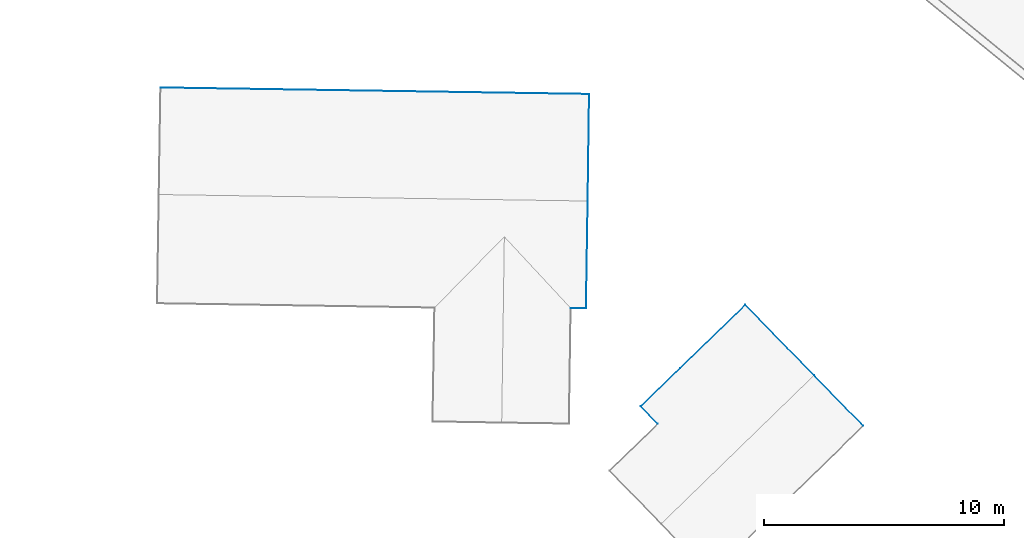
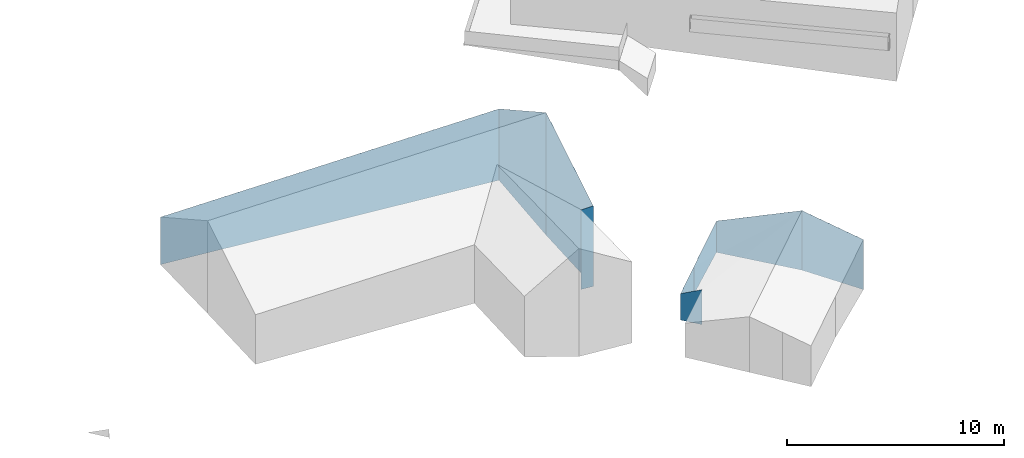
# Not in any storey, part 63 of 136: 9 walls.
"""IFC4 building model written with IfcOpenShell, lengths in metres."""

import ifcopenshell
import ifcopenshell.guid

model = None  # the IFC model being written
_history = None  # IfcOwnerHistory: only IFC2X3 demands one
_inside = {}  # id of a spatial element -> (the spatial element, [elements in it])
_under = {}  # id of a project, library or spatial element -> (it, [spatial elements below it])
_declared = {}  # id of a project -> (the project, [libraries it declares])
_typed = {}  # id of a type object -> (the type object, [elements of that type])
_made_of = {}  # id of a material, layer set ... -> (it, [elements and type objects made of it])


def new_model(schema):
    """Start an empty IFC model of exactly this schema.

    Asked for "IFC4X3", IfcOpenShell would pick the latest addendum, in which some entities
    have other attributes; the version numbers below select the first issue.
    IFC2X3 requires an IfcOwnerHistory on every rooted entity: one is made here for all.
    """
    global model, _history
    if schema == "IFC4X3":
        model = ifcopenshell.file(schema_version=(4, 3, 0, 0))
    else:
        model = ifcopenshell.file(schema=schema)
    _inside.clear()
    _under.clear()
    _declared.clear()
    _typed.clear()
    _made_of.clear()
    _history = None
    if model.schema == "IFC2X3":
        org = make("IfcOrganization", Name="unknown")
        user = make(
            "IfcPersonAndOrganization",
            ThePerson=make("IfcPerson", FamilyName="unknown"),
            TheOrganization=org,
        )
        app = make(
            "IfcApplication",
            ApplicationDeveloper=org,
            Version="unknown",
            ApplicationFullName="unknown",
            ApplicationIdentifier="unknown",
        )
        _history = make(
            "IfcOwnerHistory",
            OwningUser=user,
            OwningApplication=app,
            ChangeAction="ADDED",
            CreationDate=0,
        )
    return model


def make(cls, **values):
    """One entity of the class cls with the attributes given. An attribute that is None is left unset."""
    return model.create_entity(
        cls, **{name: value for name, value in values.items() if value is not None}
    )


def entity(cls, *values):
    """Any entity or typed value of the class cls, its attributes in the order of the schema. None: left unset."""
    e = model.create_entity(cls)
    for i, value in enumerate(values):
        if value is not None:
            e[i] = value
    return e


def rooted(cls, **values):
    """An entity with a GlobalId (a new one), such as an element, a storey or a relation."""
    return make(cls, GlobalId=ifcopenshell.guid.new(), OwnerHistory=_history, **values)


def si_unit(unit_type, name, prefix=None):
    """IfcSIUnit, for example si_unit("LENGTHUNIT", "METRE", prefix="MILLI")."""
    return make("IfcSIUnit", UnitType=unit_type, Prefix=prefix, Name=name)


def converted_unit(unit_type, name, factor, base, dimensions=None, offset=None):
    """IfcConversionBasedUnit, such as the inch: factor (a typed value) times the base unit."""
    return make(
        "IfcConversionBasedUnit"
        if offset is None
        else "IfcConversionBasedUnitWithOffset",
        ConversionOffset=offset,
        Dimensions=None
        if dimensions is None
        else entity("IfcDimensionalExponents", *dimensions),
        UnitType=unit_type,
        Name=name,
        ConversionFactor=make(
            "IfcMeasureWithUnit", ValueComponent=factor, UnitComponent=base
        ),
    )


def assignment(units):
    """IfcUnitAssignment: the units of a project."""
    return None if units is None else make("IfcUnitAssignment", Units=units)


def point(xyz):
    """IfcCartesianPoint."""
    return None if xyz is None else make("IfcCartesianPoint", Coordinates=xyz)


def direction(xyz):
    """IfcDirection."""
    return None if xyz is None else make("IfcDirection", DirectionRatios=xyz)


def frame(location, z_axis=None, x_axis=None):
    """IfcAxis2Placement3D, a coordinate frame: its origin and axes. An axis left out is left unset."""
    return make(
        "IfcAxis2Placement3D",
        Location=point(location),
        Axis=direction(z_axis),
        RefDirection=direction(x_axis),
    )


def origin():
    """The frame at (0, 0, 0) with its axes left unset."""
    return frame((0.0, 0.0, 0.0))


def place(relative_to, where):
    """IfcLocalPlacement: puts the frame where relative to a parent placement (None: the world)."""
    return make(
        "IfcLocalPlacement", PlacementRelTo=relative_to, RelativePlacement=where
    )


def context(
    kind, dimensions, precision=None, world=None, true_north=None, identifier=None
):
    """IfcGeometricRepresentationContext, for example the 3D "Model" context."""
    return make(
        "IfcGeometricRepresentationContext",
        ContextIdentifier=identifier,
        ContextType=kind,
        CoordinateSpaceDimension=dimensions,
        Precision=precision,
        WorldCoordinateSystem=world,
        TrueNorth=true_north,
    )


def subcontext(parent, identifier, kind, view, scale=None):
    """IfcGeometricRepresentationSubContext, for example "Body" below "Model"."""
    return make(
        "IfcGeometricRepresentationSubContext",
        ContextIdentifier=identifier,
        ContextType=kind,
        ParentContext=parent,
        TargetScale=scale,
        TargetView=view,
    )


def project(units=None, contexts=None):
    """IfcProject with its units and contexts."""
    return rooted(
        "IfcProject",
        Name="project",
        RepresentationContexts=contexts,
        UnitsInContext=assignment(units),
    )


def spatial(cls, under=None, at=None, **own):
    """A site, building, storey or space (cls), placed at a placement, below another one or the project."""
    s = rooted(cls, ObjectPlacement=at, **own)
    if under is not None:
        _under.setdefault(under.id(), (under, []))[1].append(s)
    return s


def faces_of(points, faces, orient=None, outer=None):
    """IfcFace entities. A face is a list of loops; a loop is a list of indices into points, from 0.

    orient and outer hold one flag for each loop. By default every Orientation is true, the
    first loop of a face is its IfcFaceOuterBound and the others are IfcFaceBound.
    """
    made = []
    for i, loops in enumerate(faces):
        bounds = []
        for j, loop in enumerate(loops):
            is_outer = j == 0 if outer is None else outer[i][j]
            bounds.append(
                make(
                    "IfcFaceOuterBound" if is_outer else "IfcFaceBound",
                    Bound=make("IfcPolyLoop", Polygon=[points[k] for k in loop]),
                    Orientation=True if orient is None else orient[i][j],
                )
            )
        made.append(make("IfcFace", Bounds=bounds))
    return made


def face_set(faces, orient=None, outer=None):
    """The faces of one IfcConnectedFaceSet. surface_model builds it on its shared points."""
    return ("IfcConnectedFaceSet", faces, orient, outer)


def surface_model(cls, points, shells):
    """IfcFaceBasedSurfaceModel or IfcShellBasedSurfaceModel (cls): surfaces that need not close."""
    shared = [point(p) for p in points]
    made = [make(c, CfsFaces=faces_of(shared, fs, o, b)) for c, fs, o, b in shells]
    if cls == "IfcFaceBasedSurfaceModel":
        return make(cls, FbsmFaces=made)
    return make(cls, SbsmBoundary=made)


def shape(context_of_items, identifier, shape_type, items):
    """IfcShapeRepresentation: the items that make up one representation, for example the "Body"."""
    return make(
        "IfcShapeRepresentation",
        ContextOfItems=context_of_items,
        RepresentationIdentifier=identifier,
        RepresentationType=shape_type,
        Items=items,
    )


def made_of(thing, what):
    """Note that an element or type object is made of a material, layer set ...; save() writes the relation."""
    if what is not None:
        _made_of.setdefault(what.id(), (what, []))[1].append(thing)
    return thing


def element(
    cls,
    number,
    at=None,
    inside=None,
    cuts=None,
    type_object=None,
    material=None,
    context=None,
    identifier="Body",
    shape_type=None,
    held_by="IfcProductDefinitionShape",
    body=None,
    shapes=None,
    **own,
):
    """One element of the class cls, such as IfcWall. Its Tag is "e" and its number.

    at: its placement. inside: the storey or other place that contains it. cuts: it is an
    opening in that element (IfcRelVoidsElement). A single representation is given by context,
    identifier, shape_type and body (its items); several are given by shapes. held_by: the class
    of the entity that holds the representations. save() writes the other relations.
    """
    e = rooted(cls, Tag="e%d" % number, ObjectPlacement=at, **own)
    if body is not None:
        shapes = [shape(context, identifier, shape_type, body)]
    if shapes is not None:
        e.Representation = make(held_by, Representations=shapes)
    if inside is not None:
        _inside.setdefault(inside.id(), (inside, []))[1].append(e)
    if cuts is not None:
        rooted(
            "IfcRelVoidsElement", RelatingBuildingElement=cuts, RelatedOpeningElement=e
        )
    if type_object is not None:
        _typed.setdefault(type_object.id(), (type_object, []))[1].append(e)
    return made_of(e, material)


def aggregate(whole, parts):
    """IfcRelAggregates: a whole, such as a stair, and the parts it consists of."""
    return rooted("IfcRelAggregates", RelatingObject=whole, RelatedObjects=parts)


def save(model, path):
    """Write the relations noted so far, then the file.

    IfcRelAggregates (storeys below a building ...), IfcRelContainedInSpatialStructure (elements
    in a storey), IfcRelDefinesByType, IfcRelAssociatesMaterial and IfcRelDeclares: one each for
    every whole, place, type object, material and project.
    """
    for whole, parts in _under.values():
        aggregate(whole, parts)
    for where, things in _inside.values():
        rooted(
            "IfcRelContainedInSpatialStructure",
            RelatedElements=things,
            RelatingStructure=where,
        )
    for kind, things in _typed.values():
        rooted("IfcRelDefinesByType", RelatedObjects=things, RelatingType=kind)
    for what, things in _made_of.values():
        rooted("IfcRelAssociatesMaterial", RelatedObjects=things, RelatingMaterial=what)
    for by, libraries in _declared.values():
        rooted("IfcRelDeclares", RelatingContext=by, RelatedDefinitions=libraries)
    model.write(path)


model = new_model("IFC4")

# Units and contexts
model_context = context("Model", 3, precision=1e-05, world=origin())
body_context = subcontext(model_context, "Body", "Model", "MODEL_VIEW")
ifc_project = project(units=[converted_unit("PLANEANGLEUNIT", "DEGREE", entity("IfcRatioMeasure", 0.0174532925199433), si_unit("PLANEANGLEUNIT", "RADIAN"), dimensions=[0, 0, 0, 0, 0, 0, 0]), si_unit("AREAUNIT", "SQUARE_METRE"), si_unit("LENGTHUNIT", "METRE")], contexts=[model_context])

# Site, building
site_placement = place(None, origin())
site = spatial("IfcSite", under=ifc_project, at=site_placement, Name="_site")
building_1_placement = place(site_placement, origin())
building_1 = spatial("IfcBuilding", under=site, at=building_1_placement, Name="_building")

# Walls
wall_1_placement = place(building_1_placement, origin())
element("IfcWall", 1, at=wall_1_placement, inside=building_1, Name="Wall", PredefinedType="NOTDEFINED", context=body_context, shape_type="SurfaceModel", body=[
    surface_model("IfcFaceBasedSurfaceModel", [(152.48, 105.43, 42.08), (154.12, 107.03, 42.08), (154.12, 107.03, 40.511), (152.48, 105.43, 40.598)], [face_set([[[0, 1, 2, 3]]])]),
])
wall_2_placement = place(building_1_placement, origin())
element("IfcWall", 2, at=wall_2_placement, inside=building_1, Name="Wall", PredefinedType="NOTDEFINED", context=body_context, shape_type="SurfaceModel", body=[
    surface_model("IfcFaceBasedSurfaceModel", [(153.19, 104.7, 42.5), (152.48, 105.43, 42.08), (152.48, 105.43, 40.598), (153.19, 104.7, 40.529)], [face_set([[[0, 1, 2, 3]]])]),
])
wall_3_placement = place(building_1_placement, origin())
element("IfcWall", 3, at=wall_3_placement, inside=building_1, Name="Wall", PredefinedType="NOTDEFINED", context=body_context, shape_type="SurfaceModel", body=[
    surface_model("IfcFaceBasedSurfaceModel", [(159.7, 106.73, 43.45), (161.76, 104.62, 42.37), (161.76, 104.62, 39.553), (159.7, 106.73, 40.089)], [face_set([[[0, 1, 2, 3]]])]),
])
wall_4_placement = place(building_1_placement, origin())
element("IfcWall", 4, at=wall_4_placement, inside=building_1, Name="Wall", PredefinedType="NOTDEFINED", context=body_context, shape_type="SurfaceModel", body=[
    surface_model("IfcFaceBasedSurfaceModel", [(156.84, 109.67, 42.08), (159.7, 106.73, 43.45), (159.7, 106.73, 40.089), (156.84, 109.67, 40.31)], [face_set([[[0, 1, 2, 3]]])]),
])
wall_5_placement = place(building_1_placement, origin())
element("IfcWall", 5, at=wall_5_placement, inside=building_1, Name="Wall", PredefinedType="NOTDEFINED", context=body_context, shape_type="SurfaceModel", body=[
    surface_model("IfcFaceBasedSurfaceModel", [(154.12, 107.03, 42.08), (156.84, 109.67, 42.08), (156.84, 109.67, 40.31), (154.12, 107.03, 40.511)], [face_set([[[0, 1, 2, 3]]])]),
])

# Building
building_2_placement = place(site_placement, origin())
building_2 = spatial("IfcBuilding", under=site, at=building_2_placement, Name="_building")

# Walls
wall_6_placement = place(building_2_placement, origin())
element("IfcWall", 6, at=wall_6_placement, inside=building_2, Name="Wall", PredefinedType="NOTDEFINED", context=body_context, shape_type="SurfaceModel", body=[
    surface_model("IfcFaceBasedSurfaceModel", [(132.44, 118.73, 45.35), (150.32, 118.46, 45.35), (150.32, 118.46, 41.328), (132.44, 118.73, 42.671)], [face_set([[[0, 1, 2, 3]]])]),
])
wall_7_placement = place(building_2_placement, origin())
element("IfcWall", 7, at=wall_7_placement, inside=building_2, Name="Wall", PredefinedType="NOTDEFINED", context=body_context, shape_type="SurfaceModel", body=[
    surface_model("IfcFaceBasedSurfaceModel", [(150.26, 114.0, 47.87), (150.19, 109.521, 45.35), (150.19, 109.521, 40.814), (150.26, 114.0, 40.959)], [face_set([[[0, 1, 2, 3]]])]),
])
wall_8_placement = place(building_2_placement, origin())
element("IfcWall", 8, at=wall_8_placement, inside=building_2, Name="Wall", PredefinedType="NOTDEFINED", context=body_context, shape_type="SurfaceModel", body=[
    surface_model("IfcFaceBasedSurfaceModel", [(150.19, 109.521, 45.35), (149.55, 109.53, 45.35), (149.55, 109.53, 40.863), (150.19, 109.521, 40.814)], [face_set([[[0, 1, 2, 3]]])]),
])
wall_9_placement = place(building_2_placement, origin())
element("IfcWall", 9, at=wall_9_placement, inside=building_2, Name="Wall", PredefinedType="NOTDEFINED", context=body_context, shape_type="SurfaceModel", body=[
    surface_model("IfcFaceBasedSurfaceModel", [(150.32, 118.46, 45.35), (150.26, 114.0, 47.87), (150.26, 114.0, 40.959), (150.32, 118.46, 41.328)], [face_set([[[0, 1, 2, 3]]])]),
])

save(model, "model.ifc")
